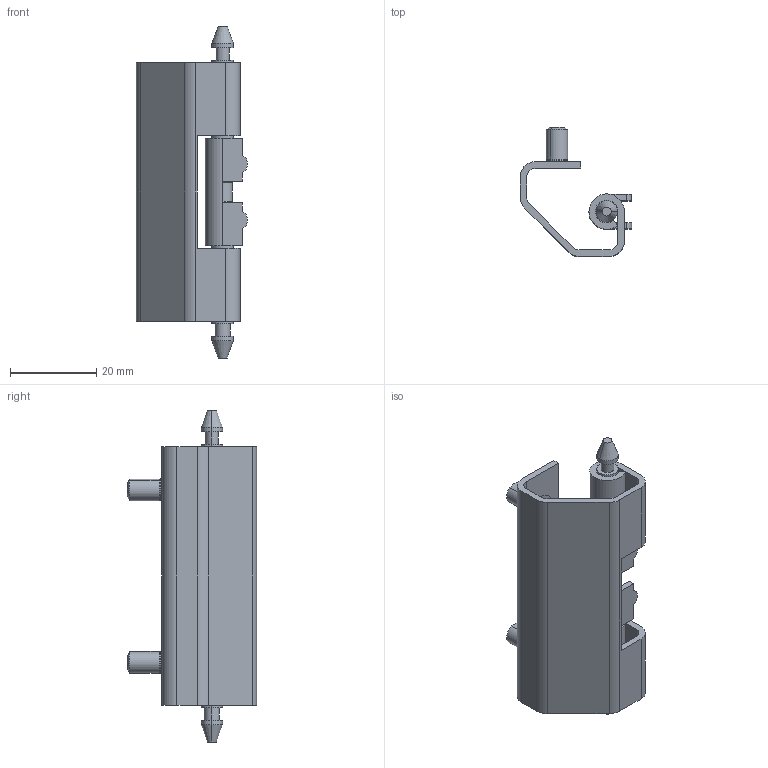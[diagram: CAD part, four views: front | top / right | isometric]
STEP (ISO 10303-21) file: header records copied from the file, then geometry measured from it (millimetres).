
FILE_DESCRIPTION (( 'STEP AP203' ), '1' );
FILE_NAME ('ST39.STEP', '2007-02-16T16:42:44', ( 'Pyrczuk' ), ( 'RST' ), 'SwSTEP 2.0', 'SolidWorks 2004231', '' );
FILE_SCHEMA (( 'CONFIG_CONTROL_DESIGN' ));
Length unit declared in the file: millimetre
Products named in the file (5): 3B. St 39 00.01_Domyœlna; 3B. St 39 00.03_Domyœlna; ST39; 3B. St 39 00.02_Domyœlna; M5_Domyœlna
Assembly tree (5 placements, depth 2):
  ST39
    M5_Domyœlna  x2
    3B. St 39 00.01_Domyœlna
    3B. St 39 00.02_Domyœlna
    3B. St 39 00.03_Domyœlna
Bounding box: 25.79 x 30 x 77 mm (x, y, z)
Volume: 7647 mm3; surface area: 10263.2 mm2
Topology: 5 solids, 5 shells, 230 faces, 602 edges, 392 vertices
Faces by surface type: plane 156, cylinder 58, cone 16
Entity records: 5663 total; most frequent: DIRECTION 920, CARTESIAN_POINT 888, ORIENTED_EDGE 864, EDGE_CURVE 432, AXIS2_PLACEMENT_3D 312, VECTOR 296, LINE 296, VERTEX_POINT 280
